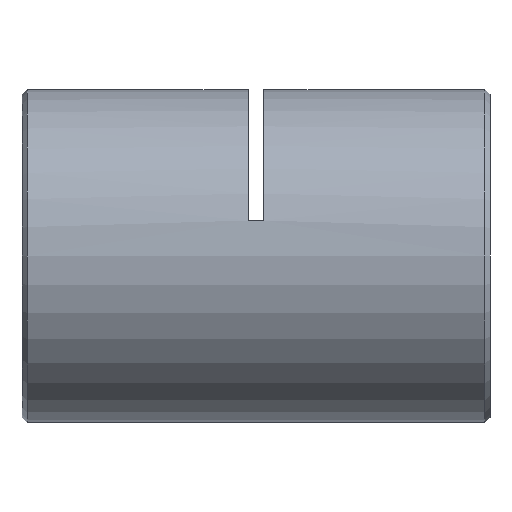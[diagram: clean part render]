
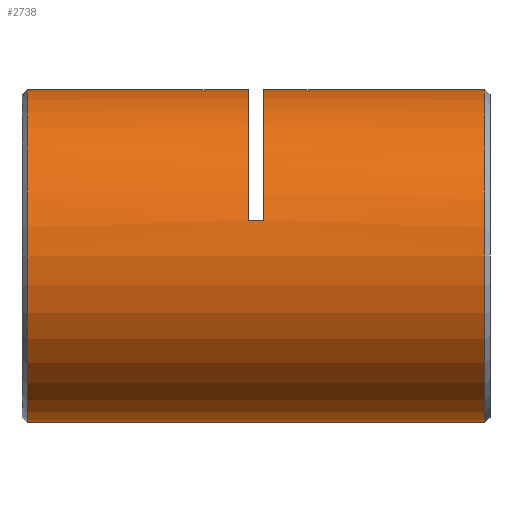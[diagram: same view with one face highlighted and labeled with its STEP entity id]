
A CAD part, left-side view. The second image highlights one B-rep face of the part: STEP entity #2738.
In plain terms, the highlighted cylindrical face has radius 16 mm (diameter 32 mm), a partial arc.
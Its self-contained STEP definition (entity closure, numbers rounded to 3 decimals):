
#9 = ORIENTED_EDGE ( 'NONE', *, *, #2814, .F. ) ;
#34 = CARTESIAN_POINT ( 'NONE',  ( 0., 44.75, 0. ) ) ;
#160 = AXIS2_PLACEMENT_3D ( 'NONE', #1810, #3537, #1046 ) ;
#178 = DIRECTION ( 'NONE',  ( 0., 1., 0. ) ) ;
#382 = EDGE_CURVE ( 'NONE', #6804, #3298, #1725, .T. ) ;
#590 = EDGE_LOOP ( 'NONE', ( #1184, #1465, #4877, #9, #6153, #6837, #3561, #3183 ) ) ;
#689 = CARTESIAN_POINT ( 'NONE',  ( 0., 23.5, 0. ) ) ;
#773 = CARTESIAN_POINT ( 'NONE',  ( 0., 23.5, 16. ) ) ;
#1039 = DIRECTION ( 'NONE',  ( 0., 1., 0. ) ) ;
#1046 = DIRECTION ( 'NONE',  ( 0., 0., 1. ) ) ;
#1155 = DIRECTION ( 'NONE',  ( 0., 0., 1. ) ) ;
#1184 = ORIENTED_EDGE ( 'NONE', *, *, #4123, .F. ) ;
#1284 = VECTOR ( 'NONE', #1039, 1000. ) ;
#1450 = CYLINDRICAL_SURFACE ( 'NONE', #160, 16. ) ;
#1465 = ORIENTED_EDGE ( 'NONE', *, *, #7854, .T. ) ;
#1725 = LINE ( 'NONE', #6615, #1284 ) ;
#1729 = CARTESIAN_POINT ( 'NONE',  ( -15.632, 22., 3.413 ) ) ;
#1810 = CARTESIAN_POINT ( 'NONE',  ( 0., 0., 0. ) ) ;
#1879 = CARTESIAN_POINT ( 'NONE',  ( 0., 0.75, 0. ) ) ;
#2192 = LINE ( 'NONE', #6445, #3356 ) ;
#2357 = CARTESIAN_POINT ( 'NONE',  ( -15.632, 23.5, 3.413 ) ) ;
#2384 = DIRECTION ( 'NONE',  ( 0., 0., -1. ) ) ;
#2443 = CIRCLE ( 'NONE', #5001, 16. ) ;
#2500 = CARTESIAN_POINT ( 'NONE',  ( 0., 0.75, 16. ) ) ;
#2738 = ADVANCED_FACE ( 'NONE', ( #7572 ), #1450, .T. ) ;
#2814 = EDGE_CURVE ( 'NONE', #6044, #3298, #7798, .T. ) ;
#2825 = CIRCLE ( 'NONE', #5892, 16. ) ;
#2860 = EDGE_CURVE ( 'NONE', #5192, #2963, #2192, .T. ) ;
#2963 = VERTEX_POINT ( 'NONE', #4629 ) ;
#3094 = AXIS2_PLACEMENT_3D ( 'NONE', #5007, #178, #5042 ) ;
#3183 = ORIENTED_EDGE ( 'NONE', *, *, #5677, .T. ) ;
#3283 = DIRECTION ( 'NONE',  ( 0., 1., 0. ) ) ;
#3298 = VERTEX_POINT ( 'NONE', #6129 ) ;
#3356 = VECTOR ( 'NONE', #3283, 1000. ) ;
#3367 = LINE ( 'NONE', #5844, #7217 ) ;
#3537 = DIRECTION ( 'NONE',  ( 0., 1., 0. ) ) ;
#3561 = ORIENTED_EDGE ( 'NONE', *, *, #2860, .T. ) ;
#3799 = DIRECTION ( 'NONE',  ( 0., 0., 1. ) ) ;
#3838 = DIRECTION ( 'NONE',  ( 0., 1., 0. ) ) ;
#3960 = EDGE_CURVE ( 'NONE', #6044, #7519, #3367, .T. ) ;
#4123 = EDGE_CURVE ( 'NONE', #5480, #6441, #7477, .T. ) ;
#4629 = CARTESIAN_POINT ( 'NONE',  ( 0., 44.75, 16. ) ) ;
#4820 = DIRECTION ( 'NONE',  ( 0., -1., 0. ) ) ;
#4871 = DIRECTION ( 'NONE',  ( 0., 1., 0. ) ) ;
#4877 = ORIENTED_EDGE ( 'NONE', *, *, #382, .T. ) ;
#5001 = AXIS2_PLACEMENT_3D ( 'NONE', #689, #6769, #3799 ) ;
#5007 = CARTESIAN_POINT ( 'NONE',  ( 0., 22., 0. ) ) ;
#5042 = DIRECTION ( 'NONE',  ( 0., 0., 1. ) ) ;
#5192 = VERTEX_POINT ( 'NONE', #773 ) ;
#5266 = CARTESIAN_POINT ( 'NONE',  ( 0., 0.75, -16. ) ) ;
#5480 = VERTEX_POINT ( 'NONE', #5266 ) ;
#5677 = EDGE_CURVE ( 'NONE', #2963, #6441, #7747, .T. ) ;
#5844 = CARTESIAN_POINT ( 'NONE',  ( -15.632, 22.75, 3.413 ) ) ;
#5892 = AXIS2_PLACEMENT_3D ( 'NONE', #1879, #4871, #1155 ) ;
#6044 = VERTEX_POINT ( 'NONE', #1729 ) ;
#6129 = CARTESIAN_POINT ( 'NONE',  ( 0., 22., 16. ) ) ;
#6153 = ORIENTED_EDGE ( 'NONE', *, *, #3960, .T. ) ;
#6209 = CARTESIAN_POINT ( 'NONE',  ( 0., 44.75, -16. ) ) ;
#6211 = VECTOR ( 'NONE', #3838, 1000. ) ;
#6408 = DIRECTION ( 'NONE',  ( 0., 1., 0. ) ) ;
#6441 = VERTEX_POINT ( 'NONE', #6209 ) ;
#6445 = CARTESIAN_POINT ( 'NONE',  ( 0., 0., 16. ) ) ;
#6615 = CARTESIAN_POINT ( 'NONE',  ( 0., 0., 16. ) ) ;
#6769 = DIRECTION ( 'NONE',  ( 0., 1., 0. ) ) ;
#6804 = VERTEX_POINT ( 'NONE', #2500 ) ;
#6837 = ORIENTED_EDGE ( 'NONE', *, *, #7895, .T. ) ;
#6888 = CARTESIAN_POINT ( 'NONE',  ( 0., 0., -16. ) ) ;
#6991 = AXIS2_PLACEMENT_3D ( 'NONE', #34, #4820, #2384 ) ;
#7217 = VECTOR ( 'NONE', #6408, 1000. ) ;
#7477 = LINE ( 'NONE', #6888, #6211 ) ;
#7519 = VERTEX_POINT ( 'NONE', #2357 ) ;
#7572 = FACE_OUTER_BOUND ( 'NONE', #590, .T. ) ;
#7747 = CIRCLE ( 'NONE', #6991, 16. ) ;
#7798 = CIRCLE ( 'NONE', #3094, 16. ) ;
#7854 = EDGE_CURVE ( 'NONE', #5480, #6804, #2825, .T. ) ;
#7895 = EDGE_CURVE ( 'NONE', #7519, #5192, #2443, .T. ) ;
